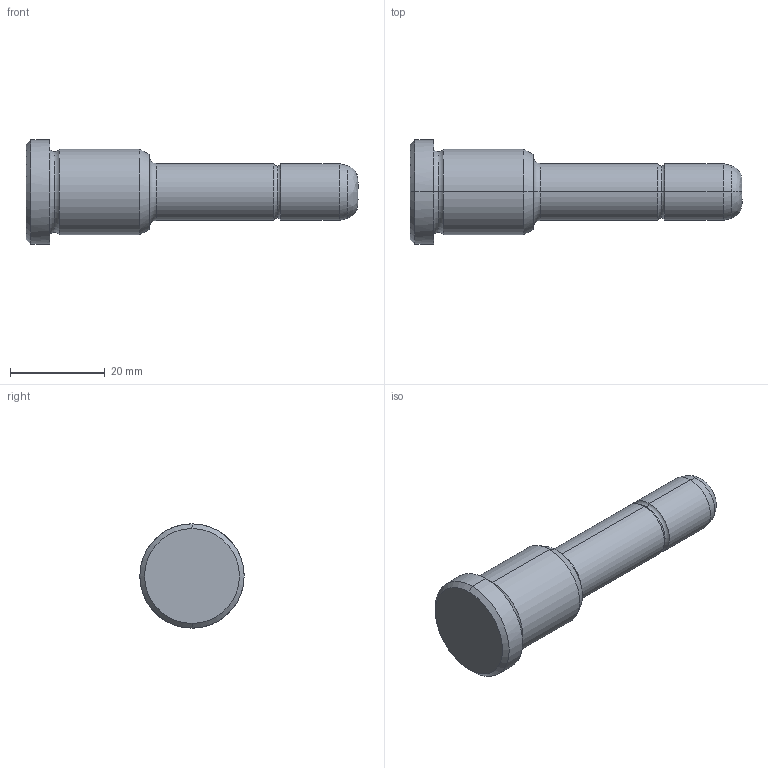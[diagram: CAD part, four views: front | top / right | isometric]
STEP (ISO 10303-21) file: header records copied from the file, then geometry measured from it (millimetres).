
FILE_DESCRIPTION(('CATIA V5 STEP Exchange'),'2;1');
FILE_NAME('C:\Users\Utente\Desktop\IO LAVORO\3D X SITO CF\X SITO\PLASTICA\351\351-12X26X70.stp','2021-08-17T12:10:29+00:00',('none'),('none'),'CATIA Version 5 Release 20 GA (IN-10)','CATIA V5 STEP AP203','none');
FILE_SCHEMA(('CONFIG_CONTROL_DESIGN'));
Length unit declared in the file: millimetre
Products named in the file (1): 351-12X26X70
Bounding box: 70 x 22 x 22 mm (x, y, z)
Volume: 11979.6 mm3; surface area: 3792 mm2
Topology: 1 solids, 1 shells, 30 faces, 86 edges, 60 vertices
Faces by surface type: torus 10, cylinder 8, cone 6, plane 4, bspline 2
Entity records: 1128 total; most frequent: CARTESIAN_POINT 343, ORIENTED_EDGE 172, DIRECTION 124, EDGE_CURVE 86, AXIS2_PLACEMENT_3D 83, VERTEX_POINT 60, CIRCLE 54, EDGE_LOOP 32
